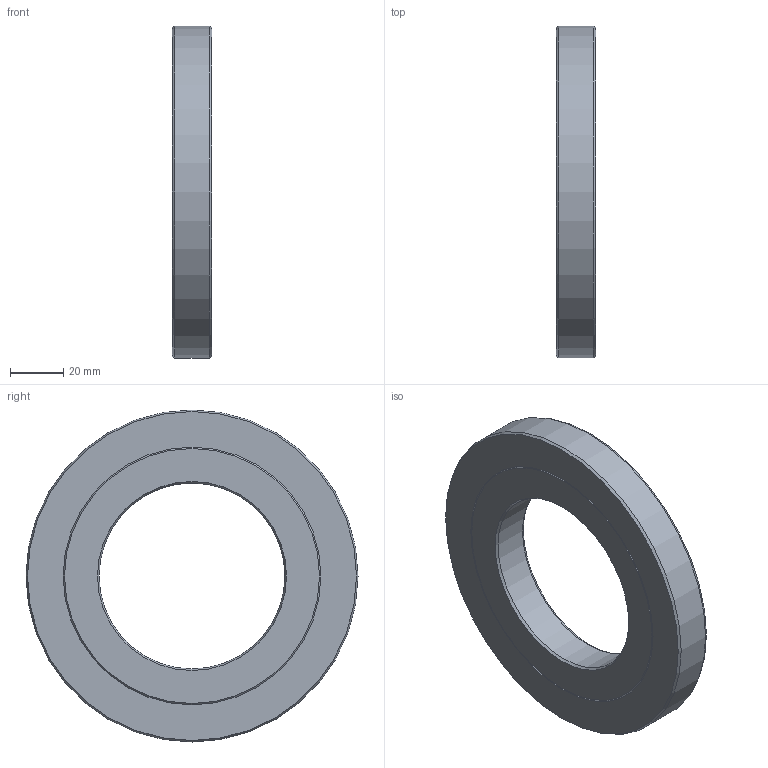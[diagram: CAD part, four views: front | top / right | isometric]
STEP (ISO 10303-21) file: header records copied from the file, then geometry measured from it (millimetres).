
FILE_DESCRIPTION(/* description */ (''),/* implementation_level */ '2;1');
FILE_NAME(/* name */ '301646 S70x125x15.stp',/* time_stamp */ '2016-12-16T13:56:49+01:00',/* author */ (''),/* organization */ (''),/* preprocessor_version */ 'ST-DEVELOPER v15',/* originating_system */ 'SIEMENS PLM Software NX 8.5',/* authorisation */ '');
FILE_SCHEMA (('CONFIG_CONTROL_DESIGN'));
Length unit declared in the file: millimetre
Products named in the file (1): ATE0000143_01
Bounding box: 15 x 125 x 125 mm (x, y, z)
Volume: 123531.6 mm3; surface area: 37445.4 mm2
Topology: 2 solids, 2 shells, 16 faces, 30 edges, 18 vertices
Faces by surface type: cone 10, plane 4, cylinder 2
Full cylindrical faces by diameter (mm): 70 x1, 125 x1
Entity records: 414 total; most frequent: DIRECTION 66, CARTESIAN_POINT 49, AXIS2_PLACEMENT_3D 33, FACE_BOUND 32, EDGE_LOOP 32, ORIENTED_EDGE 32, ADVANCED_FACE 16, VERTEX_POINT 16
